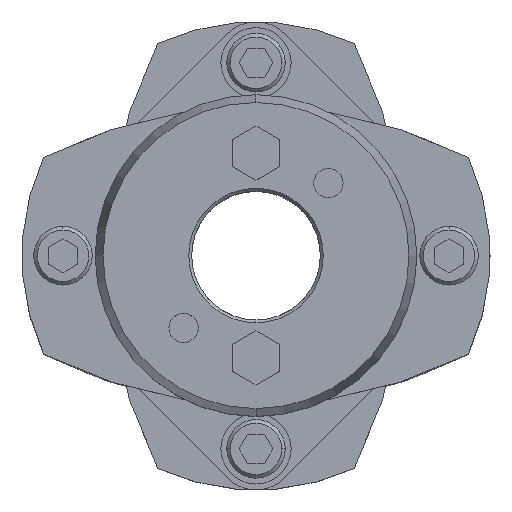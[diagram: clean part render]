
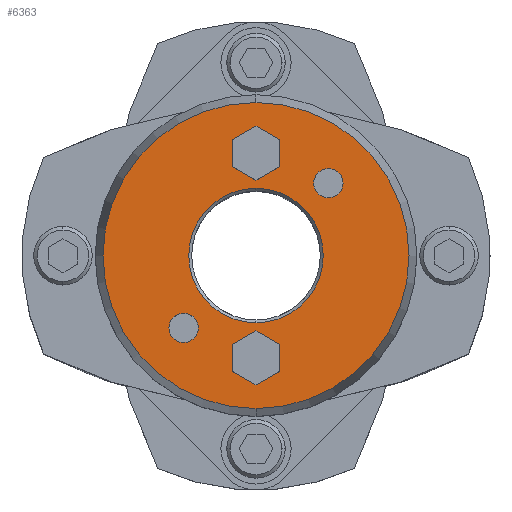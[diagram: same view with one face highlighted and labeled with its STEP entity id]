
A CAD part, top view. The second image highlights one B-rep face of the part: STEP entity #6363.
In plain terms, the highlighted planar face has unit normal (0, 0, 1).
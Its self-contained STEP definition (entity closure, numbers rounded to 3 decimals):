
#1677=CARTESIAN_POINT('',(0.,11.5,45.25));
#1678=VERTEX_POINT('',#1677);
#1694=CARTESIAN_POINT('',(0.,-11.5,45.25));
#1695=VERTEX_POINT('',#1694);
#1702=CARTESIAN_POINT('',(0.,0.,45.25));
#1703=DIRECTION('',(0.0,0.0,1.0));
#1704=DIRECTION('',(0.,1.0,0.0));
#1705=AXIS2_PLACEMENT_3D('',#1702,#1703,#1704);
#1706=CIRCLE('',#1705,11.5);
#1707=EDGE_CURVE('',#1695,#1678,#1706,.T.);
#1865=CARTESIAN_POINT('',(0.,-26.16,45.25));
#1866=VERTEX_POINT('',#1865);
#1873=CARTESIAN_POINT('',(0.,26.16,45.25));
#1874=VERTEX_POINT('',#1873);
#1875=CARTESIAN_POINT('',(0.,0.,45.25));
#1876=DIRECTION('',(0.0,0.0,-1.0));
#1877=DIRECTION('',(0.,-1.0,0.0));
#1878=AXIS2_PLACEMENT_3D('',#1875,#1876,#1877);
#1879=CIRCLE('',#1878,26.16);
#1880=EDGE_CURVE('',#1866,#1874,#1879,.T.);
#1975=CARTESIAN_POINT('',(12.374,14.874,45.25));
#1976=VERTEX_POINT('',#1975);
#1992=CARTESIAN_POINT('',(12.374,9.874,45.25));
#1993=VERTEX_POINT('',#1992);
#2000=CARTESIAN_POINT('',(12.374,12.374,45.25));
#2001=DIRECTION('',(0.0,0.0,-1.0));
#2002=DIRECTION('',(0.,1.0,0.0));
#2003=AXIS2_PLACEMENT_3D('',#2000,#2001,#2002);
#2004=CIRCLE('',#2003,2.5);
#2005=EDGE_CURVE('',#1976,#1993,#2004,.T.);
#2017=CARTESIAN_POINT('',(-12.374,-9.874,45.25));
#2018=VERTEX_POINT('',#2017);
#2034=CARTESIAN_POINT('',(-12.374,-14.874,45.25));
#2035=VERTEX_POINT('',#2034);
#2042=CARTESIAN_POINT('',(-12.374,-12.374,45.25));
#2043=DIRECTION('',(0.0,0.0,-1.0));
#2044=DIRECTION('',(0.,1.0,0.0));
#2045=AXIS2_PLACEMENT_3D('',#2042,#2043,#2044);
#2046=CIRCLE('',#2045,2.5);
#2047=EDGE_CURVE('',#2018,#2035,#2046,.T.);
#5607=CARTESIAN_POINT('',(0.,22.119,45.25));
#5608=VERTEX_POINT('',#5607);
#5615=CARTESIAN_POINT('',(-4.,19.809,45.25));
#5616=VERTEX_POINT('',#5615);
#5617=CARTESIAN_POINT('',(-4.,19.809,45.25));
#5618=DIRECTION('',(0.866,0.5,0.0));
#5619=VECTOR('',#5618,4.619);
#5620=LINE('',#5617,#5619);
#5621=EDGE_CURVE('',#5616,#5608,#5620,.T.);
#5645=CARTESIAN_POINT('',(4.,19.809,45.25));
#5646=VERTEX_POINT('',#5645);
#5653=CARTESIAN_POINT('',(0.,22.119,45.25));
#5654=DIRECTION('',(0.866,-0.5,0.0));
#5655=VECTOR('',#5654,4.619);
#5656=LINE('',#5653,#5655);
#5657=EDGE_CURVE('',#5608,#5646,#5656,.T.);
#5676=CARTESIAN_POINT('',(4.,15.191,45.25));
#5677=VERTEX_POINT('',#5676);
#5684=CARTESIAN_POINT('',(4.,19.809,45.25));
#5685=DIRECTION('',(0.,-1.0,0.0));
#5686=VECTOR('',#5685,4.619);
#5687=LINE('',#5684,#5686);
#5688=EDGE_CURVE('',#5646,#5677,#5687,.T.);
#5707=CARTESIAN_POINT('',(0.,12.881,45.25));
#5708=VERTEX_POINT('',#5707);
#5715=CARTESIAN_POINT('',(4.,15.191,45.25));
#5716=DIRECTION('',(-0.866,-0.5,0.0));
#5717=VECTOR('',#5716,4.619);
#5718=LINE('',#5715,#5717);
#5719=EDGE_CURVE('',#5677,#5708,#5718,.T.);
#5738=CARTESIAN_POINT('',(-4.,15.191,45.25));
#5739=VERTEX_POINT('',#5738);
#5746=CARTESIAN_POINT('',(0.,12.881,45.25));
#5747=DIRECTION('',(-0.866,0.5,0.0));
#5748=VECTOR('',#5747,4.619);
#5749=LINE('',#5746,#5748);
#5750=EDGE_CURVE('',#5708,#5739,#5749,.T.);
#5768=CARTESIAN_POINT('',(-4.,15.191,45.25));
#5769=DIRECTION('',(0.,1.0,0.0));
#5770=VECTOR('',#5769,4.619);
#5771=LINE('',#5768,#5770);
#5772=EDGE_CURVE('',#5739,#5616,#5771,.T.);
#5807=CARTESIAN_POINT('',(0.,-12.881,45.25));
#5808=VERTEX_POINT('',#5807);
#5815=CARTESIAN_POINT('',(-4.,-15.191,45.25));
#5816=VERTEX_POINT('',#5815);
#5817=CARTESIAN_POINT('',(-4.,-15.191,45.25));
#5818=DIRECTION('',(0.866,0.5,0.0));
#5819=VECTOR('',#5818,4.619);
#5820=LINE('',#5817,#5819);
#5821=EDGE_CURVE('',#5816,#5808,#5820,.T.);
#5845=CARTESIAN_POINT('',(4.,-15.191,45.25));
#5846=VERTEX_POINT('',#5845);
#5853=CARTESIAN_POINT('',(0.,-12.881,45.25));
#5854=DIRECTION('',(0.866,-0.5,0.0));
#5855=VECTOR('',#5854,4.619);
#5856=LINE('',#5853,#5855);
#5857=EDGE_CURVE('',#5808,#5846,#5856,.T.);
#5876=CARTESIAN_POINT('',(4.,-19.809,45.25));
#5877=VERTEX_POINT('',#5876);
#5884=CARTESIAN_POINT('',(4.,-15.191,45.25));
#5885=DIRECTION('',(0.,-1.0,0.0));
#5886=VECTOR('',#5885,4.619);
#5887=LINE('',#5884,#5886);
#5888=EDGE_CURVE('',#5846,#5877,#5887,.T.);
#5907=CARTESIAN_POINT('',(0.,-22.119,45.25));
#5908=VERTEX_POINT('',#5907);
#5915=CARTESIAN_POINT('',(4.,-19.809,45.25));
#5916=DIRECTION('',(-0.866,-0.5,0.0));
#5917=VECTOR('',#5916,4.619);
#5918=LINE('',#5915,#5917);
#5919=EDGE_CURVE('',#5877,#5908,#5918,.T.);
#5938=CARTESIAN_POINT('',(-4.,-19.809,45.25));
#5939=VERTEX_POINT('',#5938);
#5946=CARTESIAN_POINT('',(0.,-22.119,45.25));
#5947=DIRECTION('',(-0.866,0.5,0.0));
#5948=VECTOR('',#5947,4.619);
#5949=LINE('',#5946,#5948);
#5950=EDGE_CURVE('',#5908,#5939,#5949,.T.);
#5968=CARTESIAN_POINT('',(-4.,-19.809,45.25));
#5969=DIRECTION('',(0.,1.0,0.0));
#5970=VECTOR('',#5969,4.619);
#5971=LINE('',#5968,#5970);
#5972=EDGE_CURVE('',#5939,#5816,#5971,.T.);
#5998=CARTESIAN_POINT('',(-12.374,-12.374,45.25));
#5999=DIRECTION('',(0.0,0.0,-1.0));
#6000=DIRECTION('',(0.,1.0,0.0));
#6001=AXIS2_PLACEMENT_3D('',#5998,#5999,#6000);
#6002=CIRCLE('',#6001,2.5);
#6003=EDGE_CURVE('',#2035,#2018,#6002,.T.);
#6032=CARTESIAN_POINT('',(12.374,12.374,45.25));
#6033=DIRECTION('',(0.0,0.0,-1.0));
#6034=DIRECTION('',(0.,1.0,0.0));
#6035=AXIS2_PLACEMENT_3D('',#6032,#6033,#6034);
#6036=CIRCLE('',#6035,2.5);
#6037=EDGE_CURVE('',#1993,#1976,#6036,.T.);
#6310=CARTESIAN_POINT('',(0.,0.,45.25));
#6311=DIRECTION('',(0.0,0.0,-1.0));
#6312=DIRECTION('',(0.,-1.0,0.0));
#6313=AXIS2_PLACEMENT_3D('',#6310,#6311,#6312);
#6314=CIRCLE('',#6313,26.16);
#6315=EDGE_CURVE('',#1874,#1866,#6314,.T.);
#6320=CARTESIAN_POINT('',(0.,2.364,45.25));
#6321=DIRECTION('',(0.0,0.0,1.0));
#6322=DIRECTION('',(0.,1.0,0.0));
#6323=AXIS2_PLACEMENT_3D('',#6320,#6321,#6322);
#6324=PLANE('',#6323);
#6325=ORIENTED_EDGE('',*,*,#6315,.F.);
#6326=ORIENTED_EDGE('',*,*,#1880,.F.);
#6327=EDGE_LOOP('',(#6325,#6326));
#6328=FACE_OUTER_BOUND('',#6327,.T.);
#6329=ORIENTED_EDGE('',*,*,#5621,.T.);
#6330=ORIENTED_EDGE('',*,*,#5657,.T.);
#6331=ORIENTED_EDGE('',*,*,#5688,.T.);
#6332=ORIENTED_EDGE('',*,*,#5719,.T.);
#6333=ORIENTED_EDGE('',*,*,#5750,.T.);
#6334=ORIENTED_EDGE('',*,*,#5772,.T.);
#6335=EDGE_LOOP('',(#6329,#6330,#6331,#6332,#6333,#6334));
#6336=FACE_BOUND('',#6335,.T.);
#6337=ORIENTED_EDGE('',*,*,#5821,.T.);
#6338=ORIENTED_EDGE('',*,*,#5857,.T.);
#6339=ORIENTED_EDGE('',*,*,#5888,.T.);
#6340=ORIENTED_EDGE('',*,*,#5919,.T.);
#6341=ORIENTED_EDGE('',*,*,#5950,.T.);
#6342=ORIENTED_EDGE('',*,*,#5972,.T.);
#6343=EDGE_LOOP('',(#6337,#6338,#6339,#6340,#6341,#6342));
#6344=FACE_BOUND('',#6343,.T.);
#6345=ORIENTED_EDGE('',*,*,#2047,.T.);
#6346=ORIENTED_EDGE('',*,*,#6003,.T.);
#6347=EDGE_LOOP('',(#6345,#6346));
#6348=FACE_BOUND('',#6347,.T.);
#6349=ORIENTED_EDGE('',*,*,#2005,.T.);
#6350=ORIENTED_EDGE('',*,*,#6037,.T.);
#6351=EDGE_LOOP('',(#6349,#6350));
#6352=FACE_BOUND('',#6351,.T.);
#6353=ORIENTED_EDGE('',*,*,#1707,.F.);
#6354=CARTESIAN_POINT('',(0.,0.,45.25));
#6355=DIRECTION('',(0.0,0.0,1.0));
#6356=DIRECTION('',(0.,1.0,0.0));
#6357=AXIS2_PLACEMENT_3D('',#6354,#6355,#6356);
#6358=CIRCLE('',#6357,11.5);
#6359=EDGE_CURVE('',#1678,#1695,#6358,.T.);
#6360=ORIENTED_EDGE('',*,*,#6359,.F.);
#6361=EDGE_LOOP('',(#6353,#6360));
#6362=FACE_BOUND('',#6361,.T.);
#6363=ADVANCED_FACE('',(#6328,#6336,#6344,#6348,#6352,#6362),#6324,.T.);
